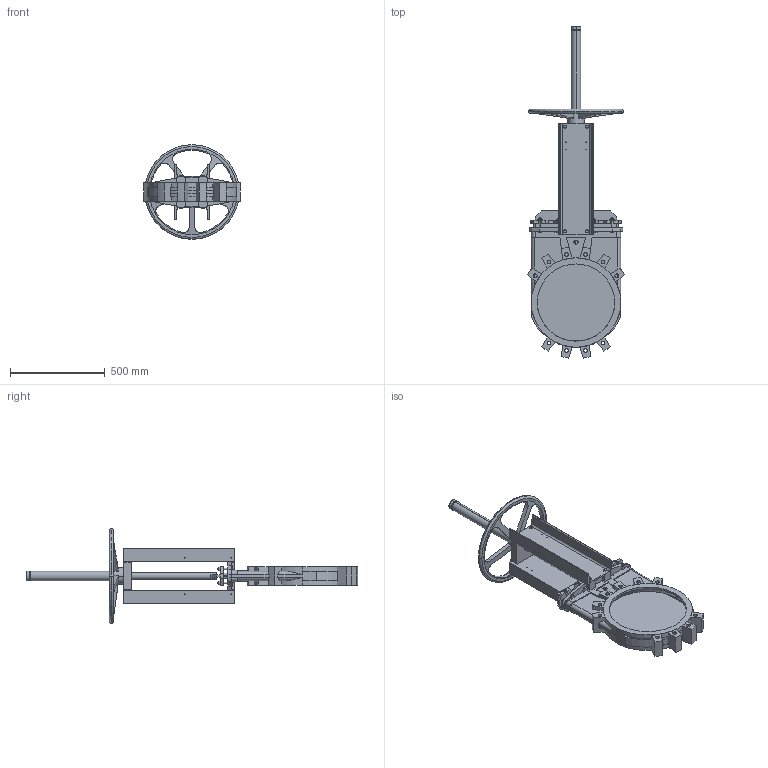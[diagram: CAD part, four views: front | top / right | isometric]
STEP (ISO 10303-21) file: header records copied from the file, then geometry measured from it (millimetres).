
FILE_DESCRIPTION (( 'STEP AP203' ), '1' );
FILE_NAME ('VG DN400.STEP', '2010-01-29T00:35:13', ( 'farex' ), ( '' ), 'SwSTEP 2.0', 'SolidWorks 2009', '' );
FILE_SCHEMA (( 'CONFIG_CONTROL_DESIGN' ));
Length unit declared in the file: millimetre
Products named in the file (1): VG DN400
Bounding box: 512.16 x 1753.13 x 500 mm (x, y, z)
Volume: 20736923 mm3; surface area: 2549220.9 mm2
Topology: 1 solids, 3 shells, 973 faces, 2581 edges, 1674 vertices
Faces by surface type: plane 547, cylinder 284, cone 87, torus 28, bspline 27
Entity records: 33676 total; most frequent: CARTESIAN_POINT 9153, ORIENTED_EDGE 5162, DIRECTION 5028, EDGE_CURVE 2581, AXIS2_PLACEMENT_3D 1746, VERTEX_POINT 1674, VECTOR 1536, LINE 1536
